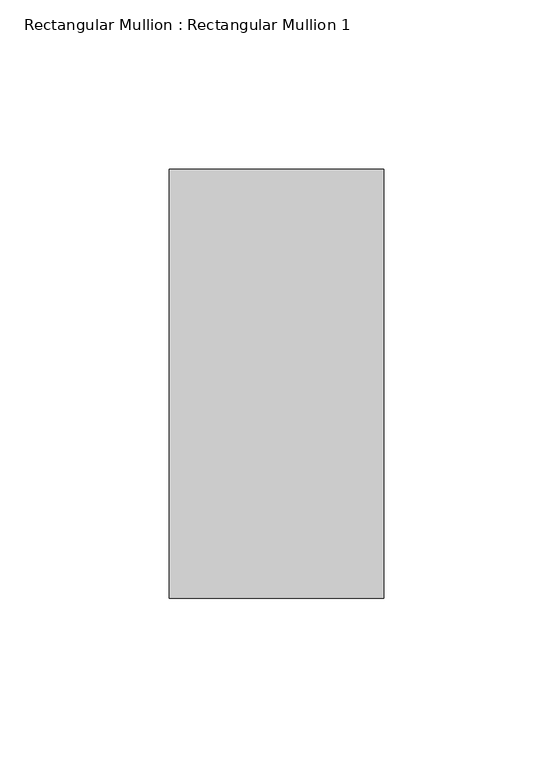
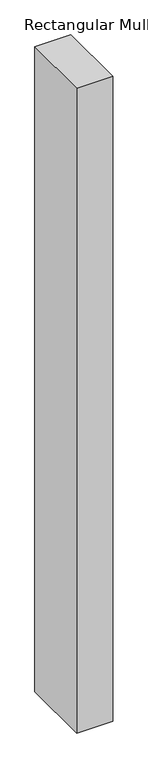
"""IFC4 building model written with IfcOpenShell, lengths in millimetres: member geometry, Rectangular Mullion : Rectangular Mullion 1."""

from ifc_helpers import new_model, si_unit, frame, origin, place, context, project, spatial, polyline, outline, extrude, source, transform, mapped, element, save


def rectangular_mullion_rectangular_mullion_1_33fd05ac(model_context):
    return source(origin(), model_context, "Body", "SweptSolid", [
        extrude(outline(polyline([(31.75, 63.5), (31.75, -63.5), (-31.75, -63.5), (-31.75, 63.5), (31.75, 63.5)])), frame((0.0, 0.0, -1200.0), z_axis=(0.0, 0.0, 1.0), x_axis=(1.0, 0.0, 0.0)), (0.0, 0.0, 1.0), 1200.0),
    ])


if __name__ == "__main__":
    model = new_model("IFC4")
    model_context = context("Model", 3, world=origin())
    ifc_project = project(units=[si_unit("LENGTHUNIT", "METRE", prefix="MILLI")], contexts=[model_context])
    site = spatial("IfcSite", under=ifc_project)
    building = spatial("IfcBuilding", under=site)
    placement = place(None, origin())
    rectangular_mullion_rectangular_mullion_1_shape = rectangular_mullion_rectangular_mullion_1_33fd05ac(model_context)
    element("IfcMember", 1, ObjectType="Rectangular Mullion : Rectangular Mullion 1", at=placement, inside=building, context=model_context, shape_type="MappedRepresentation", body=[
        mapped(rectangular_mullion_rectangular_mullion_1_shape, transform((0.0, 0.0, 0.0), x_axis=(1.0, 0.0, 0.0), y_axis=(0.0, 1.0, 0.0), z_axis=(0.0, 0.0, 1.0))),
    ])
    save(model, "model.ifc")
